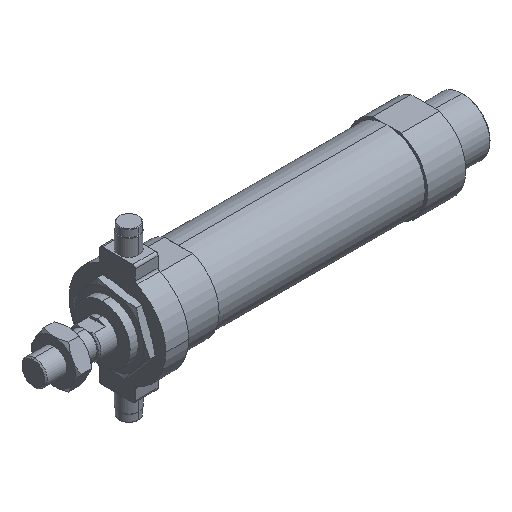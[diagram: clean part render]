
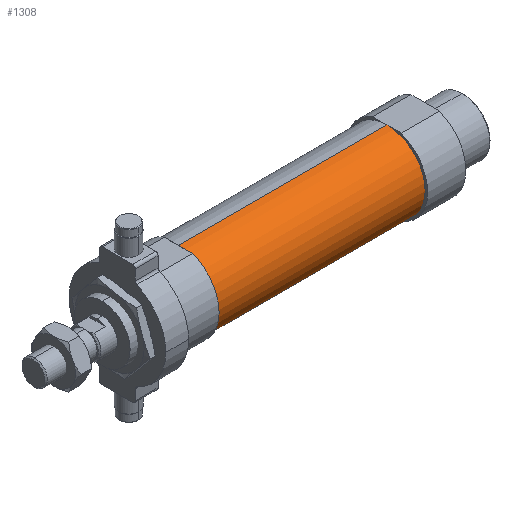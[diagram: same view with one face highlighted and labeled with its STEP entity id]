
A CAD part, isometric view. The second image highlights one B-rep face of the part: STEP entity #1308.
In plain terms, the highlighted cylindrical face has radius 15 mm (diameter 30 mm), a partial arc.
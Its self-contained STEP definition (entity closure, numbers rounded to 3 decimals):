
#92 = EDGE_CURVE ( 'NONE', #3834, #94, #598, .T. ) ;
#94 = VERTEX_POINT ( 'NONE', #1215 ) ;
#178 = CIRCLE ( 'NONE', #4560, 15. ) ;
#518 = CARTESIAN_POINT ( 'NONE',  ( 57., 0., 0. ) ) ;
#598 = LINE ( 'NONE', #4570, #2580 ) ;
#797 = EDGE_LOOP ( 'NONE', ( #2574, #2040, #1441, #2183 ) ) ;
#807 = AXIS2_PLACEMENT_3D ( 'NONE', #3392, #4253, #2672 ) ;
#1215 = CARTESIAN_POINT ( 'NONE',  ( 57., 0., -15. ) ) ;
#1235 = CARTESIAN_POINT ( 'NONE',  ( 139., 0., 0. ) ) ;
#1308 = ADVANCED_FACE ( 'NONE', ( #2309 ), #1352, .T. ) ;
#1352 = CYLINDRICAL_SURFACE ( 'NONE', #807, 15. ) ;
#1419 = CARTESIAN_POINT ( 'NONE',  ( 139., 0., -15. ) ) ;
#1441 = ORIENTED_EDGE ( 'NONE', *, *, #2501, .T. ) ;
#1491 = DIRECTION ( 'NONE',  ( -1., 0., 0. ) ) ;
#1532 = AXIS2_PLACEMENT_3D ( 'NONE', #1235, #3358, #2906 ) ;
#1581 = VERTEX_POINT ( 'NONE', #2337 ) ;
#1669 = LINE ( 'NONE', #4445, #4215 ) ;
#1973 = VERTEX_POINT ( 'NONE', #4224 ) ;
#2040 = ORIENTED_EDGE ( 'NONE', *, *, #4271, .T. ) ;
#2089 = DIRECTION ( 'NONE',  ( -1., 0., 0. ) ) ;
#2183 = ORIENTED_EDGE ( 'NONE', *, *, #3640, .F. ) ;
#2269 = DIRECTION ( 'NONE',  ( -1., 0., 0. ) ) ;
#2309 = FACE_OUTER_BOUND ( 'NONE', #797, .T. ) ;
#2337 = CARTESIAN_POINT ( 'NONE',  ( 139., 0., 15. ) ) ;
#2501 = EDGE_CURVE ( 'NONE', #1581, #1973, #1669, .T. ) ;
#2574 = ORIENTED_EDGE ( 'NONE', *, *, #92, .F. ) ;
#2580 = VECTOR ( 'NONE', #1491, 1000. ) ;
#2672 = DIRECTION ( 'NONE',  ( 0., 0., 1. ) ) ;
#2906 = DIRECTION ( 'NONE',  ( 0., 0., 1. ) ) ;
#2951 = DIRECTION ( 'NONE',  ( 0., 0., 1. ) ) ;
#3358 = DIRECTION ( 'NONE',  ( -1., 0., 0. ) ) ;
#3392 = CARTESIAN_POINT ( 'NONE',  ( -6.469, 0., 0. ) ) ;
#3640 = EDGE_CURVE ( 'NONE', #94, #1973, #178, .T. ) ;
#3834 = VERTEX_POINT ( 'NONE', #1419 ) ;
#4215 = VECTOR ( 'NONE', #2269, 1000. ) ;
#4224 = CARTESIAN_POINT ( 'NONE',  ( 57., 0., 15. ) ) ;
#4253 = DIRECTION ( 'NONE',  ( -1., 0., 0. ) ) ;
#4271 = EDGE_CURVE ( 'NONE', #3834, #1581, #4459, .T. ) ;
#4445 = CARTESIAN_POINT ( 'NONE',  ( -6.469, 0., 15. ) ) ;
#4459 = CIRCLE ( 'NONE', #1532, 15. ) ;
#4560 = AXIS2_PLACEMENT_3D ( 'NONE', #518, #2089, #2951 ) ;
#4570 = CARTESIAN_POINT ( 'NONE',  ( -6.469, 0., -15. ) ) ;
